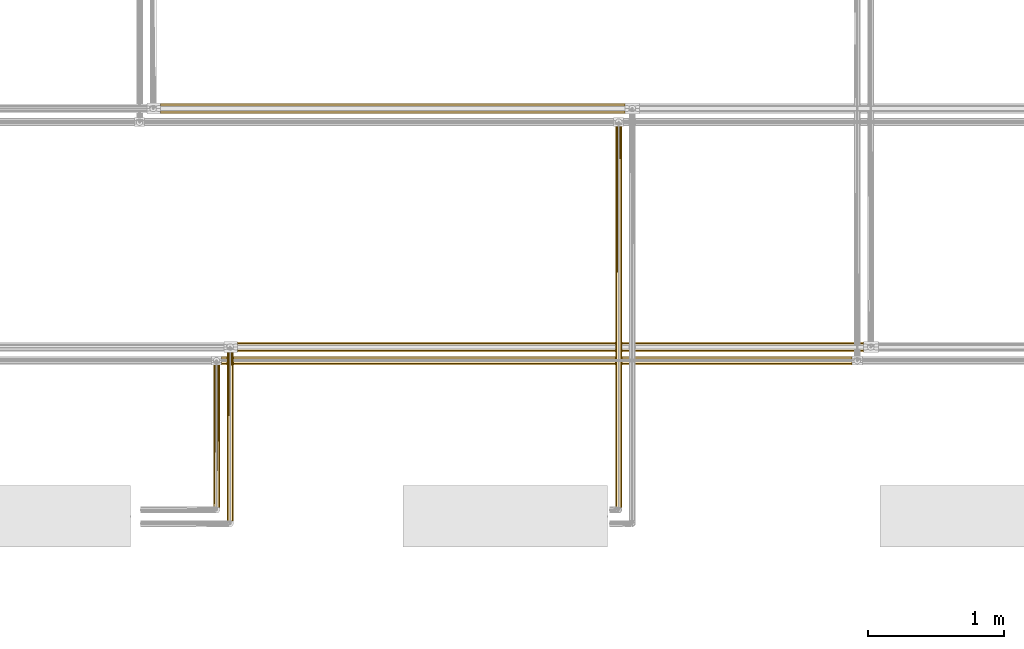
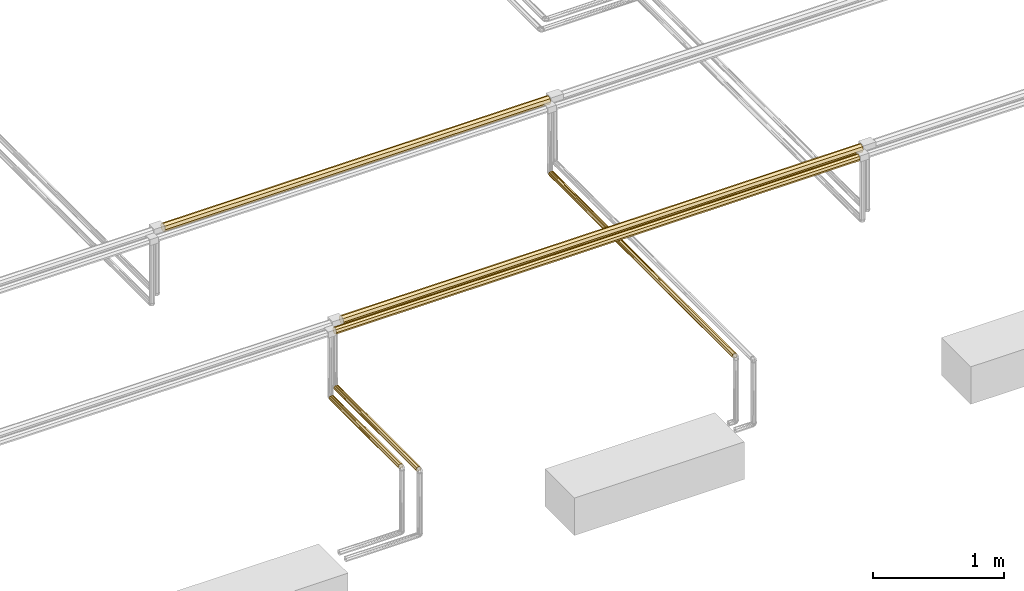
# One storey, part 128 of 652: 6 coverings.
"""IFC2X3 building model written with IfcOpenShell, lengths in millimetres."""

from ifc_helpers import new_model, entity, si_unit, converted_unit, direction, frame, origin, place, context, subcontext, project, spatial, faceted_brep, material, type_object, element, save


model = new_model("IFC2X3")

# Units and contexts
model_context = context("Model", 3, precision=0.01, world=frame((0.0, 0.0, 308426.39999999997)), true_north=direction((6.123233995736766e-17, 1.0)))
plan_context = context("Plan", 3, precision=0.01, world=frame((0.0, 0.0, 308426.39999999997)), true_north=direction((6.123233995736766e-17, 1.0)))
body_context = subcontext(model_context, "Body", "Model", "MODEL_VIEW")
ifc_project = project(units=[si_unit("LENGTHUNIT", "METRE", prefix="MILLI"), si_unit("AREAUNIT", "SQUARE_METRE"), si_unit("VOLUMEUNIT", "CUBIC_METRE"), converted_unit("PLANEANGLEUNIT", "DEGREE", entity("IfcPlaneAngleMeasure", 0.017453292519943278), si_unit("PLANEANGLEUNIT", "RADIAN"), dimensions=[0, 0, 0, 0, 0, 0, 0])], contexts=[model_context, plan_context])

# Site, building, storey
site_placement = place(None, origin())
site = spatial("IfcSite", under=ifc_project, at=site_placement, Name="Default", CompositionType="ELEMENT")
building_placement = place(site_placement, origin())
building = spatial("IfcBuilding", under=site, at=building_placement, CompositionType="ELEMENT")
storey_placement = place(building_placement, frame((0.0, 0.0, 1730.6999999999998)))
storey = spatial("IfcBuildingStorey", under=building, at=storey_placement, Name="EG_Produktion_FFB", CompositionType="ELEMENT", Elevation=1730.6999999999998)

# Coverings
ifc_material = material(Name="Dämmung - Armaflex-Schlauch")
covering_type = type_object("IfcCoveringType", Name="Rohrdämmung außen:Armaflex-Schlauch", PredefinedType="INSULATION")
covering_1_placement = place(storey_placement, frame((62321.75968313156, 69876.94222776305, 3938.057772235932)))
element("IfcCovering", 1, at=covering_1_placement, inside=storey, type_object=covering_type, material=ifc_material, Name="Rohrdämmung außen:Armaflex-Schlauch", ObjectType="Rohrdämmung außen:Armaflex-Schlauch", PredefinedType="INSULATION", context=body_context, shape_type="Brep", body=[
    faceted_brep([(0.0, 1.5952722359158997, -38.057772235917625), (0.0, 3.9458024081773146, -32.383090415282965), (0.0, 6.935081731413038, -25.16633173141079), (0.0, 9.604986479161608, -18.72061147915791), (0.0, 12.274891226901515, -12.274891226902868), (0.0, 18.72061147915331, -9.604986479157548), (0.0, 25.166331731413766, -6.9350817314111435), (0.0, 31.612051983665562, -4.26517698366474), (0.0, 38.057772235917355, -1.5952722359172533), (0.0, 43.73245405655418, -3.945802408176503), (0.0, 50.94921274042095, -6.9350817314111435), (0.0, 57.394932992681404, -9.604986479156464), (0.0, 63.8406532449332, -12.274891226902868), (0.0, 66.51055799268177, -18.72061147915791), (0.0, 69.18046274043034, -25.166331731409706), (0.0, 71.8503674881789, -31.612051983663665), (0.0, 74.52027223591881, -38.057772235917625), (0.0, 71.85036748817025, -44.50349248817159), (0.0, 69.18046274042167, -50.949212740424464), (0.0, 66.5105579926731, -57.39493299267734), (0.0, 63.8406532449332, -63.84065324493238), (0.0, 57.39493299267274, -66.5105579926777), (0.0, 50.94921274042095, -69.1804627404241), (0.0, 44.50349248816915, -71.85036748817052), (0.0, 38.057772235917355, -74.520272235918), (0.0, 32.38309041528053, -72.16974206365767), (0.0, 25.166331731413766, -69.1804627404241), (0.0, 18.72061147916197, -66.5105579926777), (0.0, 12.274891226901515, -63.84065324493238), (0.0, 9.604986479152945, -57.39493299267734), (0.0, 6.935081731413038, -50.949212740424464), (0.0, 4.265176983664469, -44.50349248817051), (3406.105499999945, 18.72061147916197, -66.51055799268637), (3406.105499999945, 25.166331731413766, -69.18046274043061), (3406.105499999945, 31.612051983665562, -71.85036748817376), (3406.105499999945, 38.057772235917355, -74.52027223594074), (3406.105499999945, 49.407135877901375, -69.81921189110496), (3406.1054999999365, 56.62389456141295, -66.82993256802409), (3406.105499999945, 63.8406532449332, -63.84065324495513), (3406.105499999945, 66.5105579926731, -57.3949329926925), (3406.105499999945, 69.18046274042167, -50.949212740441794), (3406.105499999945, 71.85036748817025, -44.50349248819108), (3406.105499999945, 74.52027223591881, -38.05777223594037), (3406.105499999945, 69.81921189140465, -26.70840859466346), (3406.105499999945, 66.82993256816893, -19.49164991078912), (3406.105499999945, 63.8406532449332, -12.274891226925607), (3406.105499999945, 57.394932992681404, -9.604986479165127), (3406.105499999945, 50.94921274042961, -6.935081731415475), (3406.105499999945, 44.50349248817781, -4.265176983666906), (3406.105499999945, 38.057772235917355, -1.5952722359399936), (3406.105499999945, 26.708408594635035, -6.296332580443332), (3406.105499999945, 19.491649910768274, -9.285611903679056), (3406.105499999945, 12.274891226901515, -12.274891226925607), (3406.105499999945, 9.604986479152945, -18.720611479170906), (3406.105499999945, 6.935081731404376, -25.166331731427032), (3406.105499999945, 4.265176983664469, -31.61205198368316), (3406.105499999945, 1.5952722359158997, -38.05777223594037), (3406.105499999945, 6.296332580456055, -49.407135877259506), (3406.105499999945, 9.285611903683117, -56.62389456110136), (3406.105499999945, 12.274891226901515, -63.84065324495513)], [[[0, 1, 2, 3, 4, 5, 6, 7, 8, 9, 10, 11, 12, 13, 14, 15, 16, 17, 18, 19, 20, 21, 22, 23, 24, 25, 26, 27, 28, 29, 30, 31]], [[32, 33, 34, 35, 36, 37, 38, 39, 40, 41, 42, 43, 44, 45, 46, 47, 48, 49, 50, 51, 52, 53, 54, 55, 56, 57, 58, 59]], [[40, 39, 38, 20, 19, 18, 17, 16, 42, 41]], [[36, 35, 24, 23, 22, 21, 20, 38, 37]], [[33, 32, 59, 28, 27, 26, 25, 24, 35, 34]], [[28, 59, 58, 57, 56, 0, 31, 30, 29]], [[54, 53, 52, 4, 3, 2, 1, 0, 56, 55]], [[4, 52, 51, 50, 49, 8, 7, 6, 5]], [[47, 46, 45, 12, 11, 10, 9, 8, 49, 48]], [[12, 45, 44, 43, 42, 16, 15, 14, 13]]]),
])
covering_2_placement = place(storey_placement, frame((62886.75968313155, 68126.94222776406, 3861.942227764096)))
element("IfcCovering", 2, at=covering_2_placement, inside=storey, type_object=covering_type, material=ifc_material, Name="Rohrdämmung außen:Armaflex-Schlauch", ObjectType="Rohrdämmung außen:Armaflex-Schlauch", PredefinedType="INSULATION", context=body_context, shape_type="Brep", body=[
    faceted_brep([(0.0, 1.5952722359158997, 38.057772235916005), (0.0, 5.082952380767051, 46.47777694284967), (0.0, 6.935081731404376, 50.949212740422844), (0.0, 9.604986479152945, 57.39493299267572), (0.0, 12.274891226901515, 63.84065324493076), (0.0, 18.72061147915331, 66.51055799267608), (0.0, 25.166331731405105, 69.18046274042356), (0.0, 31.612051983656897, 71.85036748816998), (0.0, 38.057772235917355, 74.52027223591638), (0.0, 46.477776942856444, 71.03259209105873), (0.0, 50.94921274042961, 69.18046274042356), (0.0, 57.394932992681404, 66.51055799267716), (0.0, 63.8406532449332, 63.84065324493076), (0.0, 66.51055799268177, 57.3949329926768), (0.0, 69.18046274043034, 50.949212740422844), (0.0, 71.85036748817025, 44.50349248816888), (0.0, 74.52027223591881, 38.057772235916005), (0.0, 71.85036748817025, 31.612051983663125), (0.0, 69.18046274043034, 25.166331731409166), (0.0, 66.51055799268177, 18.720611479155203), (0.0, 63.8406532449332, 12.274891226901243), (0.0, 57.394932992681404, 9.60498647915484), (0.0, 50.94921274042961, 6.935081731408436), (0.0, 44.50349248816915, 4.265176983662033), (0.0, 38.057772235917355, 1.595272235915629), (0.0, 29.637767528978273, 5.082952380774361), (0.0, 25.166331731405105, 6.935081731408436), (0.0, 18.72061147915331, 9.60498647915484), (0.0, 12.274891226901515, 12.274891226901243), (0.0, 9.604986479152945, 18.720611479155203), (0.0, 6.935081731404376, 25.166331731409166), (0.0, 4.265176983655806, 31.612051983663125), (4591.105500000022, 18.72061147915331, 9.604986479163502), (4591.105500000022, 25.166331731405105, 6.935081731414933), (4591.105500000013, 31.612051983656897, 4.265176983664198), (4591.105500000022, 38.057772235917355, 1.5952722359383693), (4591.105500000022, 46.47777694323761, 5.082952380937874), (4591.105500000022, 54.89778165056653, 8.570632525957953), (4591.105500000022, 63.8406532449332, 12.274891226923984), (4591.105500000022, 66.51055799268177, 18.720611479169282), (4591.105500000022, 69.18046274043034, 25.16633173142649), (4591.105500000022, 71.85036748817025, 31.612051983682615), (4591.105500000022, 74.52027223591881, 38.05777223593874), (4591.105500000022, 71.03259209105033, 46.47777694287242), (4591.105500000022, 67.54491194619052, 54.897781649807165), (4591.105500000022, 63.8406532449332, 63.8406532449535), (4591.105500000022, 57.39493299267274, 66.51055799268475), (4591.105500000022, 50.94921274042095, 69.18046274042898), (4591.105500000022, 44.50349248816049, 71.85036748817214), (4591.105500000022, 38.057772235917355, 74.52027223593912), (4591.105500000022, 29.637767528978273, 71.03259209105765), (4591.105500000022, 21.217762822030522, 67.5449119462), (4591.105500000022, 12.274891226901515, 63.8406532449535), (4591.105500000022, 9.604986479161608, 57.394932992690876), (4591.105500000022, 6.935081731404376, 50.94921274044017), (4591.105500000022, 4.265176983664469, 44.50349248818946), (4591.105500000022, 1.5952722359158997, 38.05777223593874), (4591.105500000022, 5.082952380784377, 29.637767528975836), (4591.105500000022, 8.570632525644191, 21.217762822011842), (4591.105500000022, 12.274891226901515, 12.274891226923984)], [[[0, 1, 2, 3, 4, 5, 6, 7, 8, 9, 10, 11, 12, 13, 14, 15, 16, 17, 18, 19, 20, 21, 22, 23, 24, 25, 26, 27, 28, 29, 30, 31]], [[32, 33, 34, 35, 36, 37, 38, 39, 40, 41, 42, 43, 44, 45, 46, 47, 48, 49, 50, 51, 52, 53, 54, 55, 56, 57, 58, 59]], [[40, 39, 38, 20, 19, 18, 17, 16, 42, 41]], [[38, 37, 36, 35, 24, 23, 22, 21, 20]], [[30, 29, 28, 59, 58, 57, 56, 0, 31]], [[27, 26, 25, 24, 35, 34, 33, 32, 59, 28]], [[6, 5, 4, 52, 51, 50, 49, 8, 7]], [[3, 2, 1, 0, 56, 55, 54, 53, 52, 4]], [[14, 13, 12, 45, 44, 43, 42, 16, 15]], [[11, 10, 9, 8, 49, 48, 47, 46, 45, 12]]]),
])
covering_3_placement = place(storey_placement, frame((62769.36068313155, 68033.29222776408, 3868.2922277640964)))
element("IfcCovering", 3, at=covering_3_placement, inside=storey, type_object=covering_type, material=ifc_material, Name="Rohrdämmung außen:Armaflex-Schlauch", ObjectType="Rohrdämmung außen:Armaflex-Schlauch", PredefinedType="INSULATION", context=body_context, shape_type="Brep", body=[
    faceted_brep([(0.0, 1.5952722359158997, 31.707772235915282), (0.0, 4.1930853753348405, 37.97944794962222), (0.0, 6.005145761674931, 42.354148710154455), (0.0, 8.210082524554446, 47.677336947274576), (0.0, 10.415019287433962, 53.000525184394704), (0.0, 15.738207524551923, 55.20546194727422), (0.0, 21.061395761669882, 57.410398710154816), (0.0, 26.384583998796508, 59.615335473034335), (0.0, 31.70777223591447, 61.820272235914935), (0.0, 37.97944794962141, 59.22245909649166), (0.0, 42.35414871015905, 57.410398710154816), (0.0, 47.67733694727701, 55.20546194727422), (0.0, 53.000525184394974, 53.000525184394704), (0.0, 55.20546194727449, 47.677336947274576), (0.0, 57.410398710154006, 42.354148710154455), (0.0, 59.615335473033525, 37.03096047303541), (0.0, 61.82027223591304, 31.707772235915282), (0.0, 59.615335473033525, 26.384583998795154), (0.0, 57.410398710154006, 21.06139576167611), (0.0, 55.20546194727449, 15.738207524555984), (0.0, 53.000525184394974, 10.415019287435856), (0.0, 47.67733694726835, 8.210082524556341), (0.0, 42.35414871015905, 6.005145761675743), (0.0, 37.03096047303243, 3.8002089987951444), (0.0, 31.70777223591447, 1.595272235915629), (0.0, 25.436096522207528, 4.193085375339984), (0.0, 21.061395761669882, 6.00514576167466), (0.0, 15.738207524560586, 8.210082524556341), (0.0, 10.415019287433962, 10.415019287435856), (0.0, 8.210082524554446, 15.738207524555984), (0.0, 6.005145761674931, 21.06139576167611), (0.0, 3.8002089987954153, 26.384583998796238), (4625.903500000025, 15.738207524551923, 8.210082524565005), (4625.903500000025, 21.061395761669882, 6.005145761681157), (4625.903500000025, 26.384583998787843, 3.800208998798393), (4625.903500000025, 31.70777223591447, 1.5952722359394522), (4625.903500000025, 37.97944794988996, 4.193085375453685), (4625.903500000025, 44.25112366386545, 6.7908985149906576), (4625.903500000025, 53.000525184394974, 10.41501928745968), (4625.903500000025, 55.205461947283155, 15.738207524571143), (4625.903500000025, 57.410398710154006, 21.061395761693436), (4625.903500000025, 59.61533547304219, 26.384583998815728), (4625.903500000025, 61.82027223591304, 31.707772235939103), (4625.903500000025, 59.22245909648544, 37.979447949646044), (4625.903500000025, 56.62464595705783, 44.251123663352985), (4625.903500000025, 53.000525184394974, 53.00052518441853), (4625.903500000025, 47.67733694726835, 55.205461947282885), (4625.903500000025, 42.35414871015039, 57.41039871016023), (4625.903500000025, 37.03096047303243, 59.61533547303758), (4625.903500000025, 31.70777223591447, 61.82027223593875), (4625.903500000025, 25.436096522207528, 59.22245909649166), (4625.903500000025, 19.164420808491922, 56.62464595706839), (4625.903500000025, 10.415019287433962, 53.00052518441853), (4625.903500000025, 8.21008252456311, 47.67733694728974), (4625.903500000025, 6.005145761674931, 42.35414871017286), (4625.903500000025, 3.8002089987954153, 37.030960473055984), (4625.903500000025, 1.5952722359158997, 31.707772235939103), (4625.903500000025, 4.193085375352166, 25.43609652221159), (4625.903500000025, 6.790898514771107, 19.16442080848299), (4625.903500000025, 10.415019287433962, 10.41501928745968)], [[[0, 1, 2, 3, 4, 5, 6, 7, 8, 9, 10, 11, 12, 13, 14, 15, 16, 17, 18, 19, 20, 21, 22, 23, 24, 25, 26, 27, 28, 29, 30, 31]], [[32, 33, 34, 35, 36, 37, 38, 39, 40, 41, 42, 43, 44, 45, 46, 47, 48, 49, 50, 51, 52, 53, 54, 55, 56, 57, 58, 59]], [[40, 39, 38, 20, 19, 18, 17, 16, 42, 41]], [[38, 37, 36, 35, 24, 23, 22, 21, 20]], [[56, 0, 31, 30, 29, 28, 59, 58, 57]], [[27, 26, 25, 24, 35, 34, 33, 32, 59, 28]], [[49, 8, 7, 6, 5, 4, 52, 51, 50]], [[3, 2, 1, 0, 56, 55, 54, 53, 52, 4]], [[42, 16, 15, 14, 13, 12, 45, 44, 43]], [[11, 10, 9, 8, 49, 48, 47, 46, 45, 12]]]),
])
covering_4_placement = place(storey_placement, frame((62806.95466089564, 66886.39153550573, 3274.6422277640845)))
element("IfcCovering", 4, at=covering_4_placement, inside=storey, type_object=covering_type, material=ifc_material, Name="Rohrdämmung außen:Armaflex-Schlauch", ObjectType="Rohrdämmung außen:Armaflex-Schlauch", PredefinedType="INSULATION", context=body_context, shape_type="Brep", body=[
    faceted_brep([(9.787128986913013, 1260.658214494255, 43.30802223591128), (40.92841548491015, 1260.658214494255, 43.30802223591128), (43.951164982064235, 1260.658214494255, 39.26743877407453), (46.97391447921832, 1260.658214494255, 35.22685531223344), (48.047093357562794, 1260.658214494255, 30.29231377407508), (49.12027223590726, 1260.658214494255, 25.35777223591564), (47.3803034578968, 1260.658214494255, 21.157116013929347), (45.640334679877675, 1260.658214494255, 16.956459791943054), (43.90036590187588, 1260.658214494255, 12.755803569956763), (42.160397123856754, 1260.658214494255, 8.55514734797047), (37.95974090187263, 1260.658214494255, 6.8151785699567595), (33.759084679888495, 1260.658214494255, 5.075209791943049), (29.558428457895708, 1260.658214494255, 3.335241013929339), (25.35777223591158, 1260.658214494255, 1.595272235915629), (21.15711601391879, 1260.658214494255, 3.335241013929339), (16.956459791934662, 1260.658214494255, 5.075209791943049), (12.755803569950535, 1260.658214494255, 6.8151785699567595), (8.55514734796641, 1260.658214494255, 8.55514734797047), (6.815178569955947, 1260.658214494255, 12.755803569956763), (5.075209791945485, 1260.658214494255, 16.956459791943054), (3.267960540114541, 1260.658214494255, 21.319545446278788), (1.5952722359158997, 1260.658214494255, 25.35777223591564), (2.6684511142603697, 1260.658214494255, 30.292313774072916), (3.7416299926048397, 1260.658214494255, 35.226855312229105), (6.764379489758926, 1260.658214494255, 39.26743877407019), (1.5952722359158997, 1.5952722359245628, 25.35777223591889), (2.6684511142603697, 1.5952722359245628, 20.423230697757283), (3.7416299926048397, 1.5952722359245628, 15.488689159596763), (6.764379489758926, 1.5952722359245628, 11.44810569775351), (9.787128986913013, 1.5952722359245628, 7.407522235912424), (40.928415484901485, 1.5952722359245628, 7.407522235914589), (43.951164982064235, 1.5952722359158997, 11.448105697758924), (46.97391447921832, 1.5952722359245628, 15.48868915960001), (48.047093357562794, 1.5952722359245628, 20.42323069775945), (49.12027223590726, 1.5952722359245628, 25.35777223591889), (47.44758393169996, 1.5952722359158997, 29.395999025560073), (45.640334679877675, 1.5952722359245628, 33.75908467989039), (43.90036590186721, 1.5952722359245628, 37.959740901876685), (42.160397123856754, 1.5952722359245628, 42.160397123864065), (37.95974090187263, 1.5952722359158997, 43.90036590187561), (33.759084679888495, 1.5952722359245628, 45.640334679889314), (29.55842845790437, 1.5952722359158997, 47.380303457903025), (25.35777223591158, 1.5952722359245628, 49.120272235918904), (21.157116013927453, 1.5952722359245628, 47.380303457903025), (16.956459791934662, 1.5952722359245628, 45.640334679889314), (12.755803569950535, 1.5952722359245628, 43.90036590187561), (8.55514734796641, 1.5952722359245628, 42.160397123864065), (6.815178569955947, 1.5952722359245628, 37.959740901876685), (5.075209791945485, 1.5952722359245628, 33.75908467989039), (3.3352410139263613, 1.5952722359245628, 29.5584284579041), (33.66781407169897, 5.907088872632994, 3.095705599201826), (37.29811477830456, 3.751180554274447, 5.251613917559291), (29.512793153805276, 6.657305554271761, 2.3454889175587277), (25.35777223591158, 7.407522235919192, 1.595272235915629), (21.202751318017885, 6.657305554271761, 2.345488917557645), (17.047730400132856, 5.907088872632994, 3.0957055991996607), (13.417429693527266, 3.75118055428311, 5.251613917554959), (21.202751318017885, 1255.5961811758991, 48.370055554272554), (13.417429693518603, 1258.5023061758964, 45.46393055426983), (17.04773040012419, 1256.3463978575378, 47.61983887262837), (25.35777223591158, 1254.8459644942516, 49.12027223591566), (29.512793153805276, 1255.5961811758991, 48.370055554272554), (33.66781407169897, 1256.3463978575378, 47.61983887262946), (37.29811477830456, 1258.5023061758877, 45.46393055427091)], [[[0, 1, 2, 3, 4, 5, 6, 7, 8, 9, 10, 11, 12, 13, 14, 15, 16, 17, 18, 19, 20, 21, 22, 23, 24]], [[25, 26, 27, 28, 29, 30, 31, 32, 33, 34, 35, 36, 37, 38, 39, 40, 41, 42, 43, 44, 45, 46, 47, 48, 49]], [[34, 6, 5]], [[11, 50, 12]], [[6, 34, 33]], [[33, 7, 6]], [[30, 9, 31]], [[10, 30, 51]], [[51, 50, 11]], [[52, 53, 13]], [[32, 31, 8]], [[31, 9, 8]], [[32, 8, 7]], [[12, 50, 52]], [[9, 30, 10]], [[33, 32, 7]], [[51, 11, 10]], [[52, 13, 12]], [[53, 54, 13]], [[26, 25, 20]], [[14, 54, 55]], [[27, 18, 28]], [[56, 15, 55]], [[17, 29, 28]], [[27, 26, 19]], [[19, 26, 20]], [[13, 54, 14]], [[28, 18, 17]], [[25, 21, 20]], [[27, 19, 18]], [[15, 56, 16]], [[29, 16, 56]], [[14, 55, 15]], [[16, 29, 17]], [[24, 47, 46]], [[25, 49, 21]], [[48, 23, 22]], [[48, 47, 23]], [[42, 57, 43]], [[0, 45, 58]], [[59, 44, 43]], [[22, 49, 48]], [[44, 59, 58]], [[23, 47, 24]], [[57, 59, 43]], [[21, 49, 22]], [[46, 0, 24]], [[60, 57, 42]], [[45, 0, 46]], [[45, 44, 58]], [[42, 61, 60]], [[4, 36, 35]], [[61, 42, 41]], [[62, 40, 63]], [[2, 38, 37]], [[38, 2, 1]], [[36, 4, 3]], [[1, 39, 38]], [[40, 62, 41]], [[35, 5, 4]], [[1, 63, 39]], [[37, 3, 2]], [[37, 36, 3]], [[41, 62, 61]], [[35, 34, 5]], [[63, 40, 39]], [[1, 0, 58, 59, 57, 60, 61, 62, 63]], [[30, 29, 56, 55, 54, 53, 52, 50, 51]]]),
])
covering_5_placement = place(storey_placement, frame((65656.95466089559, 66986.39153550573, 3274.642227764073)))
element("IfcCovering", 5, at=covering_5_placement, inside=storey, type_object=covering_type, material=ifc_material, Name="Rohrdämmung außen:Armaflex-Schlauch", ObjectType="Rohrdämmung außen:Armaflex-Schlauch", PredefinedType="INSULATION", context=body_context, shape_type="Brep", body=[
    faceted_brep([(1.5952722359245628, 2810.6582144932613, 25.35777223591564), (2.6684511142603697, 2810.6582144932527, 30.292313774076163), (3.7416299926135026, 2810.6582144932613, 35.22685531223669), (6.764379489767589, 2810.6582144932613, 39.26743877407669), (9.787128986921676, 2810.6582144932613, 43.30802223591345), (40.92841548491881, 2810.6582144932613, 43.30802223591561), (43.951164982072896, 2810.6582144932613, 39.26743877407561), (46.973914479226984, 2810.6582144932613, 35.22685531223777), (48.047093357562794, 2810.6582144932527, 30.292313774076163), (49.12027223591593, 2810.6582144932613, 25.35777223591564), (47.3803034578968, 2810.6582144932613, 21.157116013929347), (45.64033467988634, 2810.6582144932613, 16.956459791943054), (43.90036590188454, 2810.65821449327, 12.755803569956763), (42.160397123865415, 2810.6582144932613, 8.55514734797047), (37.95974090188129, 2810.6582144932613, 6.8151785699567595), (33.759084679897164, 2810.6582144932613, 5.075209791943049), (29.558428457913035, 2810.65821449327, 3.335241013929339), (25.357772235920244, 2810.6582144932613, 1.595272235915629), (21.157116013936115, 2810.6582144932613, 3.335241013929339), (16.956459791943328, 2810.6582144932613, 5.075209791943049), (12.755803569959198, 2810.6582144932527, 6.8151785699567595), (8.55514734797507, 2810.6582144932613, 8.55514734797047), (6.81517856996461, 2810.65821449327, 12.755803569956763), (5.075209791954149, 2810.6582144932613, 16.956459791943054), (3.0947187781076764, 2810.6582144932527, 21.737788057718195), (1.5952722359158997, 1.5952722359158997, 25.357772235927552), (2.6684511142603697, 1.5952722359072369, 20.42323069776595), (3.7416299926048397, 1.5952722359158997, 15.488689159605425), (6.764379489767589, 1.5952722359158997, 11.448105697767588), (9.787128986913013, 1.5952722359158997, 7.40752223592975), (40.92841548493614, 1.5952722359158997, 7.407522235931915), (43.95116498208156, 1.5952722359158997, 11.448105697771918), (46.973914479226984, 1.5952722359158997, 15.48868915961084), (48.047093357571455, 1.5952722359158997, 20.423230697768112), (49.12027223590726, 1.5952722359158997, 25.357772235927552), (47.62082569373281, 1.5952722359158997, 28.977756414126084), (45.64033467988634, 1.5952722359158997, 33.759084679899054), (43.90036590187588, 1.5952722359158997, 37.95974090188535), (42.160397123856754, 1.5952722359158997, 42.16039712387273), (37.95974090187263, 1.5952722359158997, 43.900365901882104), (33.759084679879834, 1.5952722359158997, 45.64033467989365), (29.558428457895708, 1.5952722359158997, 47.38030345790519), (25.35777223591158, 1.5952722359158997, 49.120272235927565), (21.157116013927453, 1.5952722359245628, 47.380303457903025), (16.956459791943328, 1.5952722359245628, 45.640334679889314), (12.755803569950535, 1.5952722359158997, 43.90036590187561), (8.55514734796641, 1.5952722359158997, 42.16039712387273), (6.81517856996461, 1.5952722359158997, 37.95974090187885), (5.075209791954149, 1.5952722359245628, 33.75908467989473), (3.335241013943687, 1.5952722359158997, 29.55842845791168), (33.66781407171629, 5.9070888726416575, 3.095705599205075), (37.29811477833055, 3.751180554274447, 5.251613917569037), (29.512793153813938, 6.657305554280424, 2.3454889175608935), (25.35777223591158, 7.407522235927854, 1.595272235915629), (21.202751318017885, 6.657305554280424, 2.3454889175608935), (17.04773040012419, 5.9070888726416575, 3.0957055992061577), (13.417429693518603, 3.751180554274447, 5.25161391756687), (21.20275131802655, 2805.5961811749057, 48.370055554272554), (13.417429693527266, 2808.502306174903, 45.46393055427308), (17.047730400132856, 2806.3463978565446, 47.61983887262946), (25.357772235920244, 2804.845964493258, 49.12027223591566), (29.512793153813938, 2805.5961811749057, 48.370055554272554), (33.66781407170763, 2806.3463978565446, 47.61983887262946), (37.29811477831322, 2808.502306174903, 45.46393055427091)], [[[0, 1, 2, 3, 4, 5, 6, 7, 8, 9, 10, 11, 12, 13, 14, 15, 16, 17, 18, 19, 20, 21, 22, 23, 24]], [[25, 26, 27, 28, 29, 30, 31, 32, 33, 34, 35, 36, 37, 38, 39, 40, 41, 42, 43, 44, 45, 46, 47, 48, 49]], [[34, 10, 9]], [[15, 50, 16]], [[10, 34, 33]], [[33, 11, 10]], [[30, 13, 31]], [[14, 30, 51]], [[51, 50, 15]], [[52, 53, 17]], [[32, 31, 12]], [[31, 13, 12]], [[32, 12, 11]], [[16, 50, 52]], [[13, 30, 14]], [[33, 32, 11]], [[51, 15, 14]], [[52, 17, 16]], [[53, 54, 17]], [[26, 25, 24]], [[18, 54, 55]], [[27, 22, 28]], [[56, 19, 55]], [[21, 29, 28]], [[27, 26, 23]], [[23, 26, 24]], [[17, 54, 18]], [[28, 22, 21]], [[25, 0, 24]], [[27, 23, 22]], [[19, 56, 20]], [[29, 20, 56]], [[18, 55, 19]], [[20, 29, 21]], [[3, 47, 46]], [[25, 49, 0]], [[48, 2, 1]], [[48, 47, 2]], [[42, 57, 43]], [[4, 45, 58]], [[59, 44, 43]], [[1, 49, 48]], [[44, 59, 58]], [[2, 47, 3]], [[57, 59, 43]], [[0, 49, 1]], [[46, 4, 3]], [[60, 57, 42]], [[45, 4, 46]], [[45, 44, 58]], [[42, 61, 60]], [[8, 36, 35]], [[61, 42, 41]], [[62, 40, 63]], [[6, 38, 37]], [[38, 6, 5]], [[36, 8, 7]], [[5, 39, 38]], [[40, 62, 41]], [[35, 9, 8]], [[5, 63, 39]], [[37, 7, 6]], [[37, 36, 7]], [[41, 62, 61]], [[35, 34, 9]], [[63, 40, 39]], [[62, 63, 5, 4, 58, 59, 57, 60, 61]], [[50, 51, 30, 29, 56, 55, 54, 53, 52]]]),
])
covering_6_placement = place(storey_placement, frame((62706.95466089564, 66986.39153550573, 3274.6422277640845)))
element("IfcCovering", 6, at=covering_6_placement, inside=storey, type_object=covering_type, material=ifc_material, Name="Rohrdämmung außen:Armaflex-Schlauch", ObjectType="Rohrdämmung außen:Armaflex-Schlauch", PredefinedType="INSULATION", context=body_context, shape_type="Brep", body=[
    faceted_brep([(9.787128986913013, 1060.6582144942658, 43.30802223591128), (40.92841548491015, 1060.6582144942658, 43.30802223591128), (43.951164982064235, 1060.6582144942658, 39.26743877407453), (46.97391447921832, 1060.6582144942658, 35.22685531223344), (48.047093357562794, 1060.6582144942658, 30.29231377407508), (49.12027223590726, 1060.6582144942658, 25.35777223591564), (47.38030345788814, 1060.6582144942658, 21.157116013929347), (45.64033467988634, 1060.6582144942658, 16.956459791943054), (43.90036590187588, 1060.6582144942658, 12.755803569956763), (42.160397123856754, 1060.6582144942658, 8.55514734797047), (37.95974090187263, 1060.6582144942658, 6.8151785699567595), (33.759084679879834, 1060.6582144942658, 5.075209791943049), (29.558428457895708, 1060.6582144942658, 3.335241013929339), (25.35777223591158, 1060.6582144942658, 1.595272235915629), (21.157116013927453, 1060.6582144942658, 3.335241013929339), (16.956459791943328, 1060.6582144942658, 5.075209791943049), (12.755803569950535, 1060.6582144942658, 6.8151785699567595), (8.55514734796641, 1060.6582144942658, 8.55514734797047), (6.815178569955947, 1060.6582144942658, 12.755803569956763), (5.075209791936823, 1060.6582144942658, 16.956459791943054), (3.583841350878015, 1060.6582144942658, 20.55694170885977), (1.5952722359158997, 1060.6582144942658, 25.35777223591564), (2.6684511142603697, 1060.6582144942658, 30.292313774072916), (3.7416299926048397, 1060.6582144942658, 35.226855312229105), (6.764379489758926, 1060.6582144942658, 39.26743877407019), (1.5952722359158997, 1.5952722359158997, 25.35777223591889), (2.6684511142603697, 1.5952722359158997, 20.423230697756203), (3.7416299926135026, 1.5952722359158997, 15.488689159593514), (6.764379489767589, 1.5952722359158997, 11.448105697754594), (9.787128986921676, 1.5952722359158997, 7.407522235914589), (40.928415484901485, 1.5952722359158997, 7.407522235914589), (43.95116498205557, 1.5952722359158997, 11.448105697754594), (46.97391447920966, 1.5952722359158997, 15.488689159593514), (48.047093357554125, 1.5952722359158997, 20.42323069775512), (49.12027223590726, 1.5952722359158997, 25.35777223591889), (47.13170312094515, 1.5952722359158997, 30.158602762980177), (45.64033467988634, 1.5952722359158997, 33.75908467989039), (43.90036590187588, 1.5952722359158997, 37.959740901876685), (42.160397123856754, 1.5952722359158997, 42.160397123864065), (37.95974090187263, 1.5952722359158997, 43.90036590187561), (33.759084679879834, 1.5952722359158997, 45.640334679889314), (29.558428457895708, 1.5952722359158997, 47.380303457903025), (25.35777223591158, 1.5952722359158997, 49.120272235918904), (21.15711601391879, 1.5952722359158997, 47.380303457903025), (16.956459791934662, 1.5952722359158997, 45.640334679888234), (12.755803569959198, 1.5952722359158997, 43.90036590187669), (8.55514734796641, 1.5952722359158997, 42.160397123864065), (6.815178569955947, 1.5952722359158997, 37.959740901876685), (5.075209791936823, 1.5952722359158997, 33.75908467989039), (3.3352410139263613, 1.5952722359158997, 29.558428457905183), (33.66781407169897, 5.907088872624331, 3.095705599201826), (37.29811477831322, 3.751180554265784, 5.251613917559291), (29.512793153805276, 6.657305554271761, 2.3454889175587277), (25.35777223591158, 7.407522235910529, 1.595272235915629), (21.202751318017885, 6.657305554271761, 2.3454889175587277), (17.04773040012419, 5.907088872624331, 3.095705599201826), (13.417429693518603, 3.751180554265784, 5.251613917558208), (21.202751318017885, 1055.5961811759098, 48.370055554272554), (13.417429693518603, 1058.5023061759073, 45.46393055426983), (17.04773040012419, 1056.3463978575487, 47.61983887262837), (25.35777223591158, 1054.8459644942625, 49.12027223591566), (29.512793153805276, 1055.5961811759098, 48.370055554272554), (33.66781407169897, 1056.3463978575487, 47.61983887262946), (37.29811477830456, 1058.5023061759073, 45.46393055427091)], [[[0, 1, 2, 3, 4, 5, 6, 7, 8, 9, 10, 11, 12, 13, 14, 15, 16, 17, 18, 19, 20, 21, 22, 23, 24]], [[25, 26, 27, 28, 29, 30, 31, 32, 33, 34, 35, 36, 37, 38, 39, 40, 41, 42, 43, 44, 45, 46, 47, 48, 49]], [[34, 6, 5]], [[11, 50, 12]], [[6, 34, 33]], [[33, 7, 6]], [[30, 9, 31]], [[10, 30, 51]], [[51, 50, 11]], [[52, 53, 13]], [[32, 31, 8]], [[31, 9, 8]], [[32, 8, 7]], [[12, 50, 52]], [[9, 30, 10]], [[33, 32, 7]], [[51, 11, 10]], [[52, 13, 12]], [[53, 54, 13]], [[25, 21, 26]], [[14, 54, 55]], [[27, 18, 28]], [[56, 15, 55]], [[17, 29, 28]], [[27, 26, 19]], [[19, 26, 21, 20]], [[13, 54, 14]], [[28, 18, 17]], [[27, 19, 18]], [[15, 56, 16]], [[29, 16, 56]], [[14, 55, 15]], [[16, 29, 17]], [[24, 47, 46]], [[25, 49, 21]], [[48, 23, 22]], [[48, 47, 23]], [[42, 57, 43]], [[0, 45, 58]], [[59, 44, 43]], [[22, 49, 48]], [[44, 59, 58]], [[23, 47, 24]], [[57, 59, 43]], [[21, 49, 22]], [[46, 0, 24]], [[60, 57, 42]], [[45, 0, 46]], [[45, 44, 58]], [[42, 61, 60]], [[4, 36, 35, 34]], [[61, 42, 41]], [[62, 40, 63]], [[2, 38, 37]], [[38, 2, 1]], [[36, 4, 3]], [[1, 39, 38]], [[40, 62, 41]], [[1, 63, 39]], [[37, 3, 2]], [[37, 36, 3]], [[41, 62, 61]], [[34, 5, 4]], [[63, 40, 39]], [[1, 0, 58, 59, 57, 60, 61, 62, 63]], [[30, 29, 56, 55, 54, 53, 52, 50, 51]]]),
])

save(model, "model.ifc")
